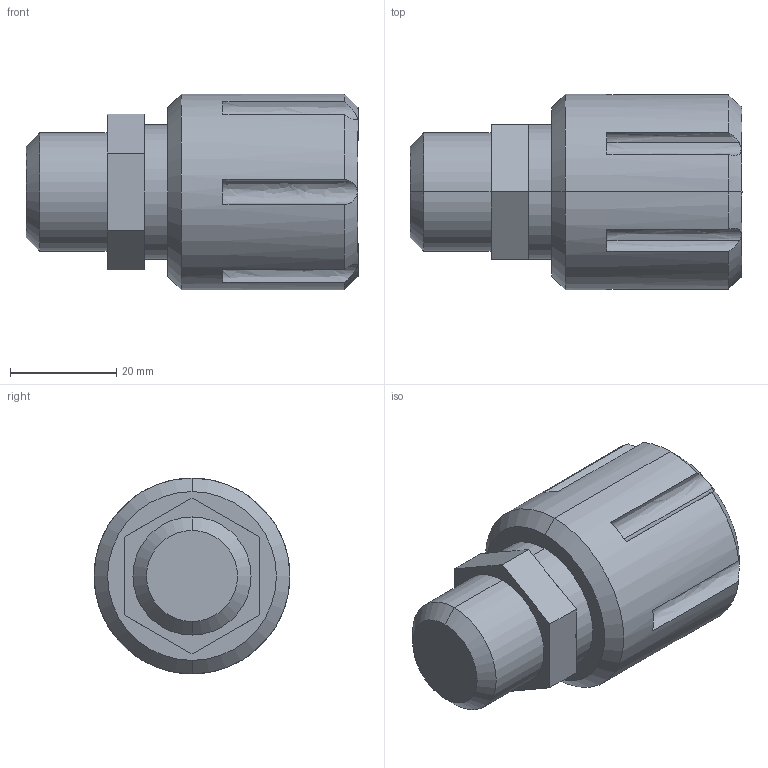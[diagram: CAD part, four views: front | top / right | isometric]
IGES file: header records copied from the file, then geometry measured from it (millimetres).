
Start section: SolidWorks IGES file using analytic representation for surfaces
Global section: file name: S:\Product Visuals\Defeatured Models\Parts Library\Liquid Fittings\Front Mount liquid Fittings\Flaretek Compatible\30LPM\Fitting Flaretek Compatible 08.IGS; native system: SolidWorks 2012; preprocessor: SolidWorks 2012; author: rachel.dressel; date: 120921.145333; units: inch
Bounding box: 62.45 x 36.83 x 36.83 mm (x, y, z)
Volume: 45065.4 mm3; surface area: 8926.3 mm2
Topology: 1 solids, 1 shells, 45 faces, 108 edges, 68 vertices
Faces by surface type: plane 23, revolution 22
